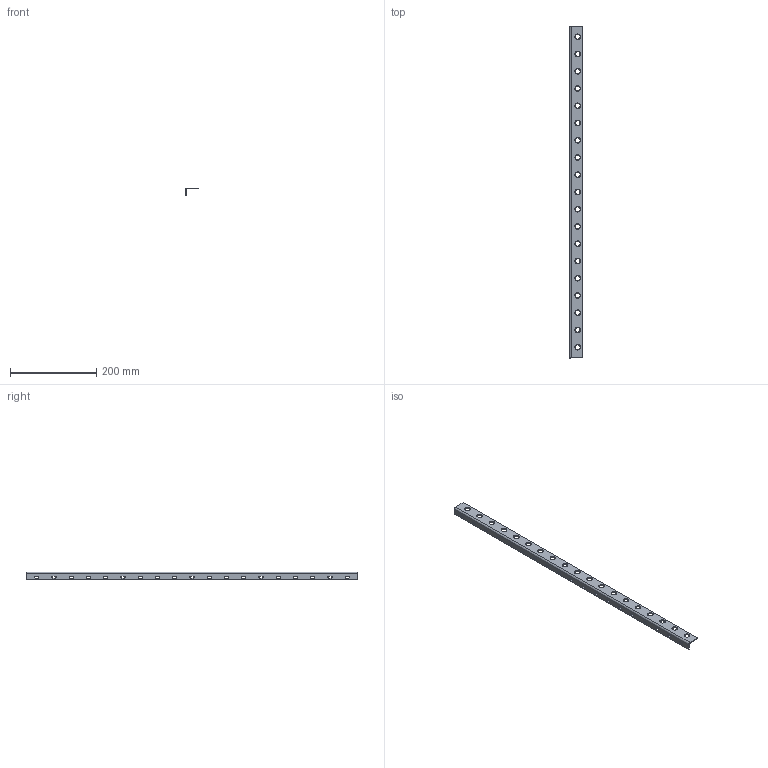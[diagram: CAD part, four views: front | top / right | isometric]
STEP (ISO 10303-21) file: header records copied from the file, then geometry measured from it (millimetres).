
FILE_DESCRIPTION (( 'STEP AP203' ), '1' );
FILE_NAME ('ORW-72.24.10.011 赶鎀鍧.STEP', '2025-10-13T13:18:08', ( '燴僽樥' ), ( '' ), 'SwSTEP 2.0', 'SolidWorks 2025', '' );
FILE_SCHEMA (( 'CONFIG_CONTROL_DESIGN' ));
Length unit declared in the file: millimetre
Products named in the file (1): ORW-72.24.10.011 Уголок
Bounding box: 30 x 770 x 18 mm (x, y, z)
Volume: 63233.4 mm3; surface area: 68779.1 mm2
Topology: 1 solids, 1 shells, 128 faces, 370 edges, 244 vertices
Faces by surface type: cylinder 59, plane 50, cone 19
Full cylindrical faces by diameter (mm): 10.9 x19
Entity records: 4113 total; most frequent: DIRECTION 708, CARTESIAN_POINT 667, ORIENTED_EDGE 626, EDGE_CURVE 313, AXIS2_PLACEMENT_3D 266, EDGE_LOOP 242, VERTEX_POINT 225, VECTOR 176
